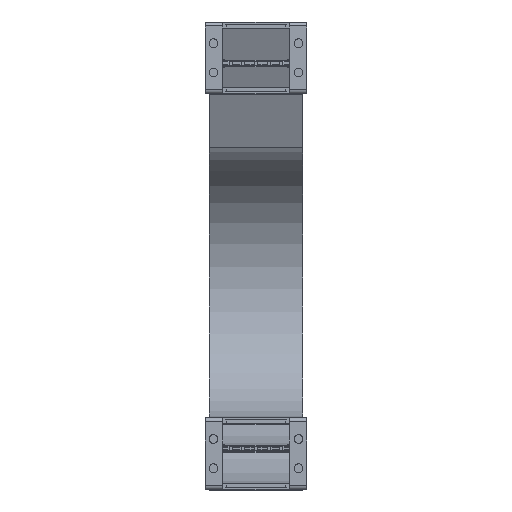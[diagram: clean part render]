
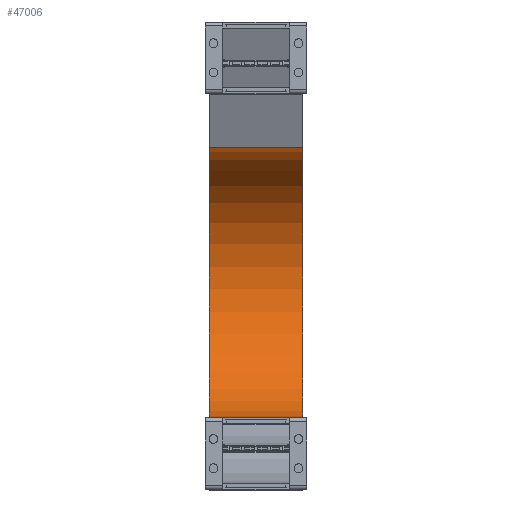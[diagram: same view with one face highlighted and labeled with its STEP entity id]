
A CAD part, top view. The second image highlights one B-rep face of the part: STEP entity #47006.
In plain terms, the highlighted cylindrical face has radius 102 mm (diameter 204 mm), a partial arc.
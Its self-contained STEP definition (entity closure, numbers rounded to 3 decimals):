
#46158=DIRECTION('',(-1.,0.,0.));
#46159=VECTOR('',#46158,70.);
#46160=CARTESIAN_POINT('',(35.,54.,-500.));
#46161=LINE('',#46160,#46159);
#46172=DIRECTION('',(-1.,0.,0.));
#46173=VECTOR('',#46172,70.);
#46174=CARTESIAN_POINT('',(35.,257.509,-509.994));
#46175=LINE('',#46174,#46173);
#46179=CARTESIAN_POINT('',(35.,156.,-500.));
#46180=DIRECTION('',(-1.,0.,0.));
#46181=DIRECTION('',(0.,0.995,-0.098));
#46182=AXIS2_PLACEMENT_3D('',#46179,#46180,#46181);
#46258=CARTESIAN_POINT('',(-35.,156.,-500.));
#46259=DIRECTION('',(-1.,0.,0.));
#46260=DIRECTION('',(0.,0.995,-0.098));
#46261=AXIS2_PLACEMENT_3D('',#46258,#46259,#46260);
#46380=CARTESIAN_POINT('',(35.,257.509,-509.994));
#46381=CARTESIAN_POINT('',(-35.,257.509,-509.994));
#46382=VERTEX_POINT('',#46380);
#46383=VERTEX_POINT('',#46381);
#46404=CARTESIAN_POINT('',(35.,54.,-500.));
#46405=CARTESIAN_POINT('',(-35.,54.,-500.));
#46406=VERTEX_POINT('',#46404);
#46407=VERTEX_POINT('',#46405);
#46992=CARTESIAN_POINT('',(1.,156.,-500.));
#46993=DIRECTION('',(-1.,0.,0.));
#46994=DIRECTION('',(0.,-0.995,0.098));
#46995=AXIS2_PLACEMENT_3D('',#46992,#46993,#46994);
#46996=CYLINDRICAL_SURFACE('',#46995,102.);
#46998=ORIENTED_EDGE('',*,*,#46997,.F.);
#47000=ORIENTED_EDGE('',*,*,#46999,.T.);
#47001=ORIENTED_EDGE('',*,*,#46975,.T.);
#47003=ORIENTED_EDGE('',*,*,#47002,.F.);
#47004=EDGE_LOOP('',(#46998,#47000,#47001,#47003));
#47005=FACE_OUTER_BOUND('',#47004,.F.);
#46183=CIRCLE('',#46182,102.);
#46262=CIRCLE('',#46261,102.);
#46975=EDGE_CURVE('',#46406,#46407,#46161,.T.);
#46997=EDGE_CURVE('',#46382,#46383,#46175,.T.);
#46999=EDGE_CURVE('',#46382,#46406,#46183,.T.);
#47002=EDGE_CURVE('',#46383,#46407,#46262,.T.);
#47006=ADVANCED_FACE('',(#47005),#46996,.F.);
